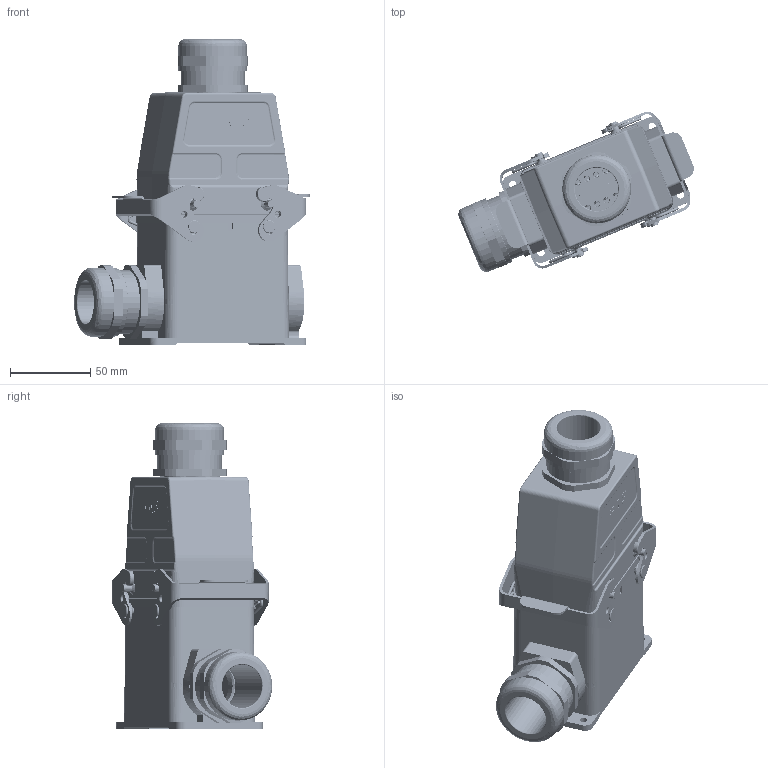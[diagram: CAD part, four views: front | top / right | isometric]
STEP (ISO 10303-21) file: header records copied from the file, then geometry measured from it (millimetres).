
FILE_DESCRIPTION (( 'STEP AP214' ), '1' );
FILE_NAME ('09032004232M H32A HA、32针、表面底座、顶出M32套件、配塑料接头.STEP', '2024-05-07T02:59:11', ( 'L' ), ( '' ), 'SwSTEP 2.0', 'SolidWorks 2019', '' );
FILE_SCHEMA (( 'AUTOMOTIVE_DESIGN' ));
Length unit declared in the file: millimetre
Products named in the file (17): tanhuang_1.STEP.STEP; asm0001.STEP.STEP; 32akouzi.STEP-1.STEP; 32akouzi.STEP.STEP; FAS-32-M.step; 09032004232M H32A  HA、32针、表面底座、顶出M32套件、配塑料接头; 09032004232 H32A  HA、32针、表面底座、顶出M32套件、配塑料接头.STEP; HA-016-FD(17-32).step.STEP; H32A-SGR-M32.STEP.STEP; H32A-TG-M32.step.STEP; ____6.STEP.STEP; 32ashuangkou.STEP.STEP; HA-016-MD(17-32).step.STEP; H32A-BM.STEP.STEP; HA-016-M.stp.STEP; HA-016-F.stp.STEP; maoding_1.STEP.STEP
Assembly tree (24 placements, depth 5):
  09032004232M H32A  HA、32针、表面底座、顶出M32套件、配塑料接头
    09032004232 H32A  HA、32针、表面底座、顶出M32套件、配塑料接头.STEP
      H32A-SGR-M32.STEP.STEP
        asm0001.STEP.STEP
          ____6.STEP.STEP
        32akouzi.STEP.STEP
          32ashuangkou.STEP.STEP
          tanhuang_1.STEP.STEP  x2
          maoding_1.STEP.STEP  x2
        32akouzi.STEP-1.STEP
          32ashuangkou.STEP.STEP
          tanhuang_1.STEP.STEP  x2
          maoding_1.STEP.STEP  x2
        H32A-BM.STEP.STEP
      HA-016-F.stp.STEP
      HA-016-FD(17-32).step.STEP
      HA-016-M.stp.STEP
      HA-016-MD(17-32).step.STEP
      H32A-TG-M32.step.STEP
    FAS-32-M.step  x2
Bounding box: 146.63 x 99.69 x 190.1 mm (x, y, z)
Volume: 403273 mm3; surface area: 209886.3 mm2
Topology: 19 solids, 19 shells, 6940 faces, 18355 edges, 11837 vertices
Faces by surface type: plane 3604, cylinder 1760, cone 630, bspline 618, torus 224, sphere 104
Entity records: 225922 total; most frequent: CARTESIAN_POINT 63292, ORIENTED_EDGE 35068, DIRECTION 32170, EDGE_CURVE 17534, VERTEX_POINT 11392, AXIS2_PLACEMENT_3D 10846, LINE 10478, VECTOR 10478
